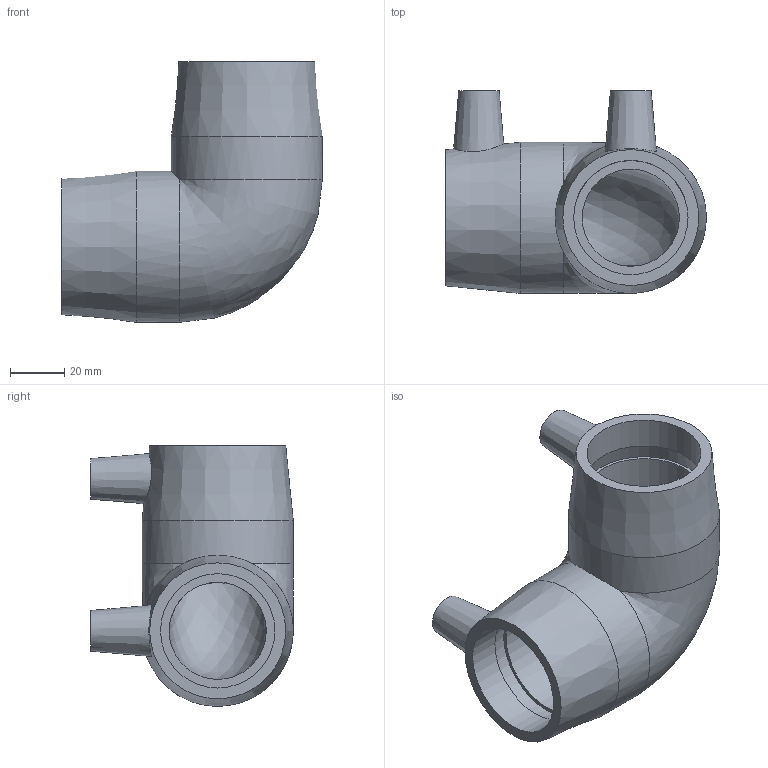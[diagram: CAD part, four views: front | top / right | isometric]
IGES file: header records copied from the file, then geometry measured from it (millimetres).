
Global section: file name: 5905B003013.ipt; native system: Autodesk Inventor 2019; preprocessor: unknown; author: KIM; date: 20210830.100955; units: inch
Bounding box: 96 x 74.55 x 96 mm (x, y, z)
Volume: 140420.8 mm3; surface area: 42949.2 mm2
Topology: 1 solids, 1 shells, 30 faces, 68 edges, 46 vertices
Faces by surface type: plane 12, revolution 9, cylinder 4, cone 4, bspline 1
Full cylindrical faces by diameter (mm): 4 x2, 55.626 x2
